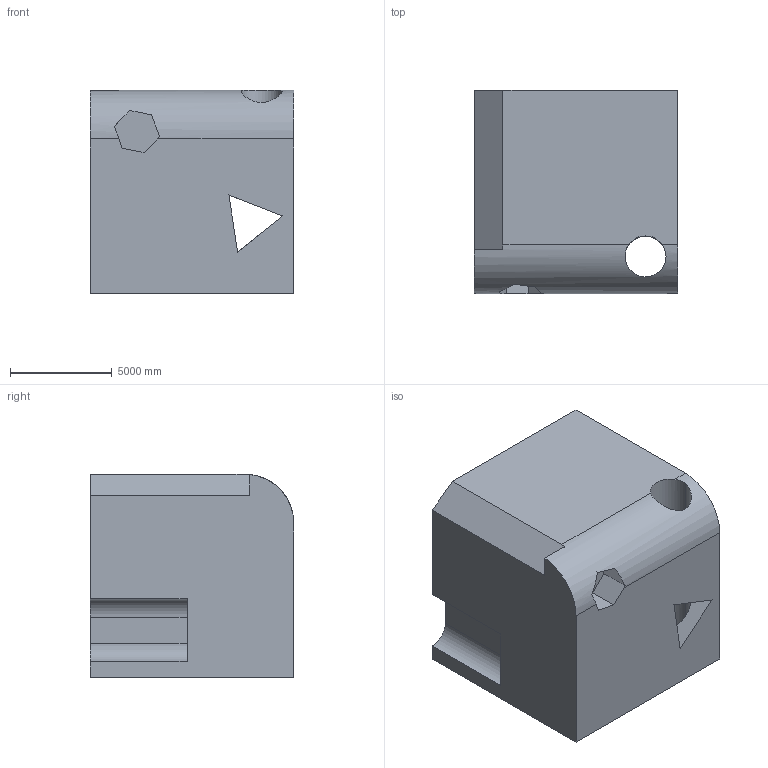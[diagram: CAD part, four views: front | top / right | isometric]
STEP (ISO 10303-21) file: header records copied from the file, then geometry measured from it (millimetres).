
FILE_DESCRIPTION (( 'STEP AP203' ), '1' );
FILE_NAME ('1522.STEP', '2022-08-18T15:01:30', ( 'user' ), ( '' ), 'SwSTEP 2.0', 'SolidWorks 2021', '' );
FILE_SCHEMA (( 'CONFIG_CONTROL_DESIGN' ));
Length unit declared in the file: centimetre
Products named in the file (1): 1522
Bounding box: 10000 x 10000 x 10000 mm (x, y, z)
Volume: 902914507037 mm3; surface area: 714383870.7 mm2
Topology: 1 solids, 1 shells, 27 faces, 78 edges, 52 vertices
Faces by surface type: plane 20, cylinder 7
Entity records: 1157 total; most frequent: CARTESIAN_POINT 381, ORIENTED_EDGE 156, DIRECTION 130, EDGE_CURVE 78, LINE 56, VECTOR 56, VERTEX_POINT 52, AXIS2_PLACEMENT_3D 37
